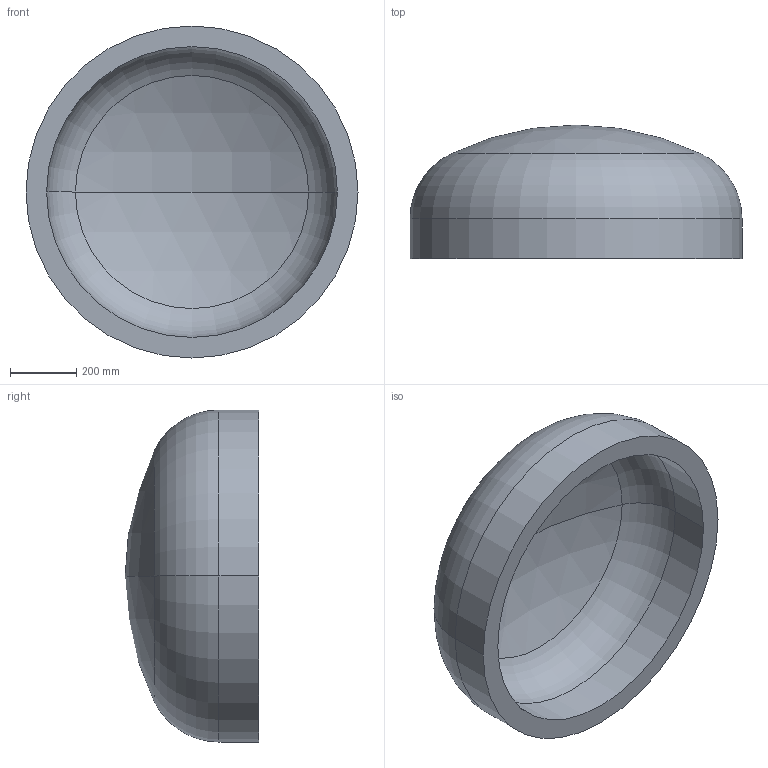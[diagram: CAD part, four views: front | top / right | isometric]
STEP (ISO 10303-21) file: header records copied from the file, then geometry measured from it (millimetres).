
FILE_DESCRIPTION (( 'STEP AP203' ), '1' );
FILE_NAME ('DIN 28013 Korbbogenform_-_Boden DIN 28013 - 1000 x 120 - I - s=62.step', '2016-07-01T08:52:11', ( '' ), ( '' ), 'SwSTEP 2.0', 'SolidWorks 2013', '' );
FILE_SCHEMA (( 'CONFIG_CONTROL_DESIGN' ));
Length unit declared in the file: millimetre
Products named in the file (1): DIN 28013 Korbbogenform_-_Boden DIN 28013 - 1000 x 120 - I - s=62
Bounding box: 1000 x 402.4 x 1000 mm (x, y, z)
Volume: 84332447 mm3; surface area: 2911154.3 mm2
Topology: 1 solids, 1 shells, 13 faces, 24 edges, 14 vertices
Faces by surface type: torus 4, cylinder 4, sphere 4, plane 1
Entity records: 407 total; most frequent: DIRECTION 72, CARTESIAN_POINT 52, ORIENTED_EDGE 48, AXIS2_PLACEMENT_3D 34, EDGE_CURVE 24, CIRCLE 20, VERTEX_POINT 14, EDGE_LOOP 14
